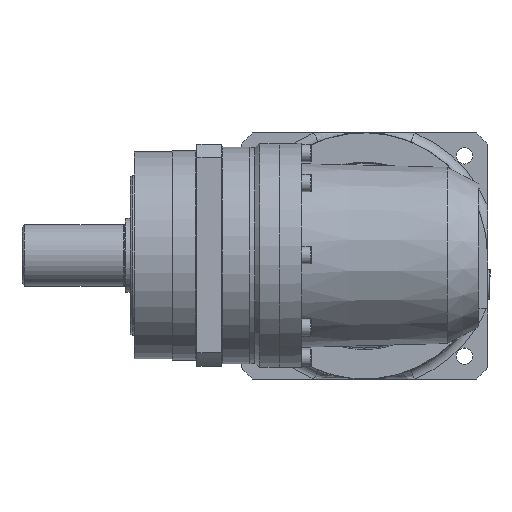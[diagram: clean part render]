
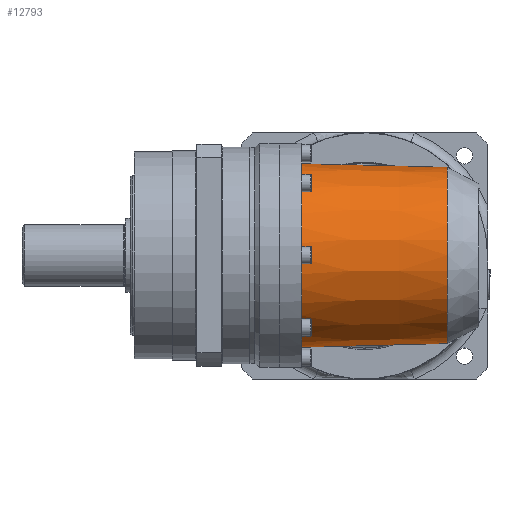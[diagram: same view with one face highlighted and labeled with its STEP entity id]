
A CAD part, top view. The second image highlights one B-rep face of the part: STEP entity #12793.
In plain terms, the highlighted conical face has half-angle 1.493 degrees and reference radius 36.52 mm.
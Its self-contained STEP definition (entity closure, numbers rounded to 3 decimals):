
#725=CONICAL_SURFACE('',#14243,36.52,0.026);
#1432=FACE_OUTER_BOUND('',#2180,.T.);
#2180=EDGE_LOOP('',(#9439,#9440,#9441,#9442,#9443,#9444,#9445,#9446,#9447,
#9448,#9449));
#2962=B_SPLINE_CURVE_WITH_KNOTS('',3,(#21352,#21353,#21354,#21355),
 .UNSPECIFIED.,.F.,.F.,(4,4),(-4.459,-0.312),
 .UNSPECIFIED.);
#2963=B_SPLINE_CURVE_WITH_KNOTS('',3,(#21358,#21359,#21360,#21361,#21362,
#21363),.UNSPECIFIED.,.F.,.F.,(4,2,4),(7.893,8.066,
8.315),.UNSPECIFIED.);
#2964=B_SPLINE_CURVE_WITH_KNOTS('',3,(#21374,#21375,#21376,#21377),
 .UNSPECIFIED.,.F.,.F.,(4,4),(-4.152,-0.005),
 .UNSPECIFIED.);
#2965=B_SPLINE_CURVE_WITH_KNOTS('',3,(#21379,#21380,#21381,#21382,#21383,
#21384),.UNSPECIFIED.,.F.,.F.,(4,2,4),(1.596,1.844,
2.017),.UNSPECIFIED.);
#2966=B_SPLINE_CURVE_WITH_KNOTS('',3,(#21385,#21386,#21387,#21388,#21389,
#21390,#21391,#21392,#21393,#21394,#21395,#21396,#21397,#21398,#21399,#21400,
#21401,#21402,#21403,#21404,#21405,#21406),.UNSPECIFIED.,.F.,.F.,(4,2,2,
2,2,2,2,2,2,2,4),(2.017,2.459,3.083,3.707,
4.331,4.955,5.579,6.203,6.827,
7.451,7.893),.UNSPECIFIED.);
#3205=LINE('',#21367,#3852);
#3852=VECTOR('',#16559,36.52);
#4512=CIRCLE('',#14244,37.29);
#4513=CIRCLE('',#14245,35.75);
#4514=CIRCLE('',#14246,35.75);
#4515=CIRCLE('',#14247,37.29);
#5632=VERTEX_POINT('',#21311);
#5635=VERTEX_POINT('',#21326);
#5636=VERTEX_POINT('',#21357);
#5637=VERTEX_POINT('',#21364);
#5638=VERTEX_POINT('',#21366);
#5639=VERTEX_POINT('',#21368);
#5640=VERTEX_POINT('',#21371);
#5641=VERTEX_POINT('',#21373);
#5642=VERTEX_POINT('',#21378);
#7162=EDGE_CURVE('',#5635,#5632,#2962,.T.);
#7163=EDGE_CURVE('',#5636,#5632,#2963,.T.);
#7164=EDGE_CURVE('',#5637,#5635,#4512,.T.);
#7165=EDGE_CURVE('',#5637,#5638,#3205,.T.);
#7166=EDGE_CURVE('',#5638,#5639,#4513,.T.);
#7167=EDGE_CURVE('',#5639,#5638,#4514,.T.);
#7168=EDGE_CURVE('',#5640,#5637,#4515,.T.);
#7169=EDGE_CURVE('',#5641,#5640,#2964,.T.);
#7170=EDGE_CURVE('',#5641,#5642,#2965,.T.);
#7171=EDGE_CURVE('',#5642,#5636,#2966,.T.);
#9439=ORIENTED_EDGE('',*,*,#7163,.T.);
#9440=ORIENTED_EDGE('',*,*,#7162,.F.);
#9441=ORIENTED_EDGE('',*,*,#7164,.F.);
#9442=ORIENTED_EDGE('',*,*,#7165,.T.);
#9443=ORIENTED_EDGE('',*,*,#7166,.T.);
#9444=ORIENTED_EDGE('',*,*,#7167,.T.);
#9445=ORIENTED_EDGE('',*,*,#7165,.F.);
#9446=ORIENTED_EDGE('',*,*,#7168,.F.);
#9447=ORIENTED_EDGE('',*,*,#7169,.F.);
#9448=ORIENTED_EDGE('',*,*,#7170,.T.);
#9449=ORIENTED_EDGE('',*,*,#7171,.T.);
#12793=ADVANCED_FACE('',(#1432),#725,.T.);
#14243=AXIS2_PLACEMENT_3D('',#21356,#16555,#16556);
#14244=AXIS2_PLACEMENT_3D('',#21365,#16557,#16558);
#14245=AXIS2_PLACEMENT_3D('',#21369,#16560,#16561);
#14246=AXIS2_PLACEMENT_3D('',#21370,#16562,#16563);
#14247=AXIS2_PLACEMENT_3D('',#21372,#16564,#16565);
#16555=DIRECTION('center_axis',(-1.,0.,0.));
#16556=DIRECTION('ref_axis',(0.,-1.,0.));
#16557=DIRECTION('center_axis',(-1.,0.,0.));
#16558=DIRECTION('ref_axis',(0.,0.,1.));
#16559=DIRECTION('',(1.,-0.026,0.));
#16560=DIRECTION('center_axis',(-1.,0.,0.));
#16561=DIRECTION('ref_axis',(0.,0.,1.));
#16562=DIRECTION('center_axis',(-1.,0.,0.));
#16563=DIRECTION('ref_axis',(0.,0.,1.));
#16564=DIRECTION('center_axis',(-1.,0.,0.));
#16565=DIRECTION('ref_axis',(0.,0.,1.));
#21311=CARTESIAN_POINT('',(50.455,-25.979,25.224));
#21326=CARTESIAN_POINT('',(9.,-26.553,26.182));
#21352=CARTESIAN_POINT('Ctrl Pts',(9.,-26.553,26.182));
#21353=CARTESIAN_POINT('Ctrl Pts',(22.818,-26.362,25.863));
#21354=CARTESIAN_POINT('Ctrl Pts',(36.637,-26.17,25.544));
#21355=CARTESIAN_POINT('Ctrl Pts',(50.455,-25.979,25.224));
#21356=CARTESIAN_POINT('Origin',(38.55,0.,0.));
#21357=CARTESIAN_POINT('',(53.981,-23.984,27.005));
#21358=CARTESIAN_POINT('Ctrl Pts',(53.981,-23.984,27.005));
#21359=CARTESIAN_POINT('Ctrl Pts',(53.524,-24.281,26.758));
#21360=CARTESIAN_POINT('Ctrl Pts',(53.058,-24.568,26.51));
#21361=CARTESIAN_POINT('Ctrl Pts',(51.892,-25.245,25.912));
#21362=CARTESIAN_POINT('Ctrl Pts',(51.183,-25.624,25.563));
#21363=CARTESIAN_POINT('Ctrl Pts',(50.455,-25.979,25.224));
#21364=CARTESIAN_POINT('',(9.,37.29,0.));
#21365=CARTESIAN_POINT('Origin',(9.,0.,0.));
#21366=CARTESIAN_POINT('',(68.1,35.75,0.));
#21367=CARTESIAN_POINT('',(38.55,36.52,0.));
#21368=CARTESIAN_POINT('',(68.1,-35.75,0.));
#21369=CARTESIAN_POINT('Origin',(68.1,0.,0.));
#21370=CARTESIAN_POINT('Origin',(68.1,0.,0.));
#21371=CARTESIAN_POINT('',(9.,26.553,26.182));
#21372=CARTESIAN_POINT('Origin',(9.,0.,0.));
#21373=CARTESIAN_POINT('',(50.455,25.979,25.224));
#21374=CARTESIAN_POINT('Ctrl Pts',(50.455,25.979,25.224));
#21375=CARTESIAN_POINT('Ctrl Pts',(36.637,26.17,25.544));
#21376=CARTESIAN_POINT('Ctrl Pts',(22.818,26.362,25.863));
#21377=CARTESIAN_POINT('Ctrl Pts',(9.,26.553,26.182));
#21378=CARTESIAN_POINT('',(53.981,23.984,27.005));
#21379=CARTESIAN_POINT('Ctrl Pts',(50.455,25.979,25.224));
#21380=CARTESIAN_POINT('Ctrl Pts',(51.183,25.624,25.563));
#21381=CARTESIAN_POINT('Ctrl Pts',(51.892,25.245,25.912));
#21382=CARTESIAN_POINT('Ctrl Pts',(53.058,24.568,26.51));
#21383=CARTESIAN_POINT('Ctrl Pts',(53.524,24.281,26.758));
#21384=CARTESIAN_POINT('Ctrl Pts',(53.981,23.984,27.005));
#21385=CARTESIAN_POINT('Ctrl Pts',(53.981,23.984,27.005));
#21386=CARTESIAN_POINT('Ctrl Pts',(55.153,23.221,27.642));
#21387=CARTESIAN_POINT('Ctrl Pts',(56.255,22.395,28.282));
#21388=CARTESIAN_POINT('Ctrl Pts',(58.71,20.295,29.765));
#21389=CARTESIAN_POINT('Ctrl Pts',(60.093,18.881,30.654));
#21390=CARTESIAN_POINT('Ctrl Pts',(62.584,15.725,32.315));
#21391=CARTESIAN_POINT('Ctrl Pts',(63.692,13.983,33.086));
#21392=CARTESIAN_POINT('Ctrl Pts',(65.512,10.258,34.374));
#21393=CARTESIAN_POINT('Ctrl Pts',(66.226,8.272,34.892));
#21394=CARTESIAN_POINT('Ctrl Pts',(67.18,4.182,35.589));
#21395=CARTESIAN_POINT('Ctrl Pts',(67.421,2.08,35.768));
#21396=CARTESIAN_POINT('Ctrl Pts',(67.421,-2.08,35.768));
#21397=CARTESIAN_POINT('Ctrl Pts',(67.18,-4.182,35.589));
#21398=CARTESIAN_POINT('Ctrl Pts',(66.226,-8.272,34.892));
#21399=CARTESIAN_POINT('Ctrl Pts',(65.512,-10.258,34.374));
#21400=CARTESIAN_POINT('Ctrl Pts',(63.692,-13.983,33.086));
#21401=CARTESIAN_POINT('Ctrl Pts',(62.584,-15.725,32.315));
#21402=CARTESIAN_POINT('Ctrl Pts',(60.093,-18.881,30.654));
#21403=CARTESIAN_POINT('Ctrl Pts',(58.71,-20.295,29.765));
#21404=CARTESIAN_POINT('Ctrl Pts',(56.255,-22.395,28.282));
#21405=CARTESIAN_POINT('Ctrl Pts',(55.153,-23.221,27.642));
#21406=CARTESIAN_POINT('Ctrl Pts',(53.981,-23.984,27.005));
